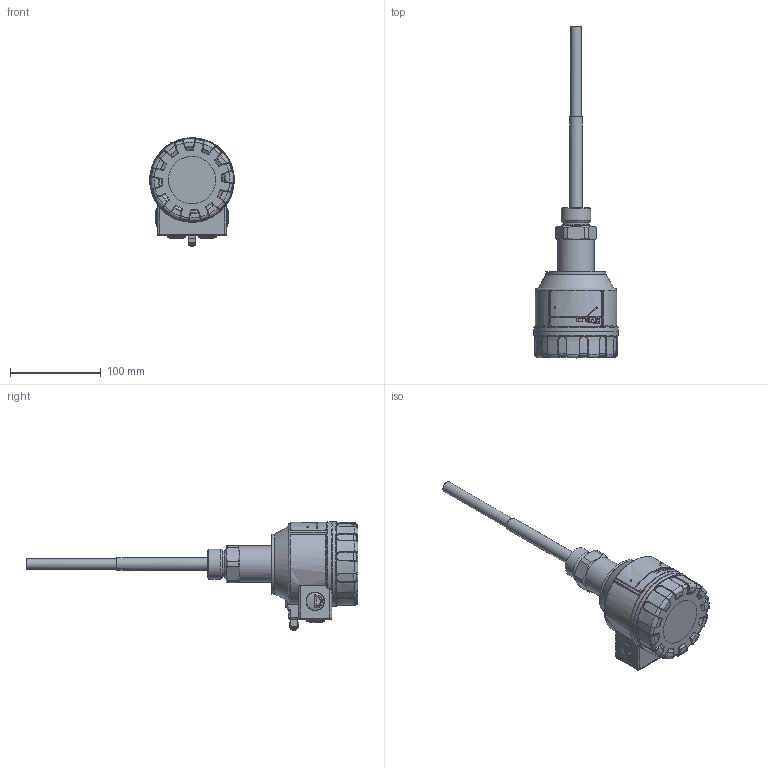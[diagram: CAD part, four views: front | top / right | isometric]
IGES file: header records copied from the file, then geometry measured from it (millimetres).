
Global section: file name: CT_Mű_1 col_vékony rud,2; native system: 2HAutodesk Inventor 2015; preprocessor: unknown; author: aantal; date: 20150626.083927; units: millimetre
Bounding box: 92.99 x 365.1 x 119.24 mm (x, y, z)
Volume: 804844.5 mm3; surface area: 95412.8 mm2
Topology: 12 solids, 12 shells, 1257 faces, 3138 edges, 1941 vertices
Faces by surface type: bspline 1257
